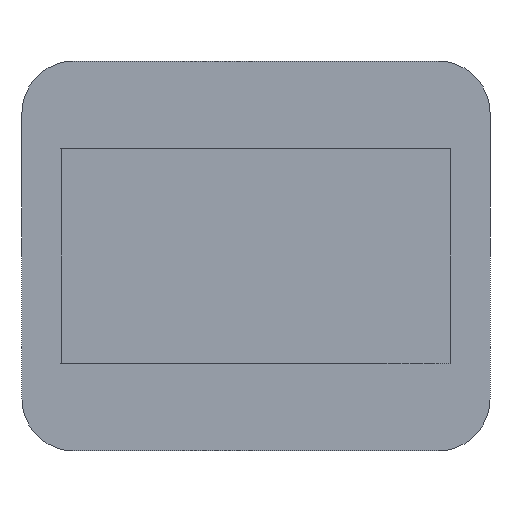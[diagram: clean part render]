
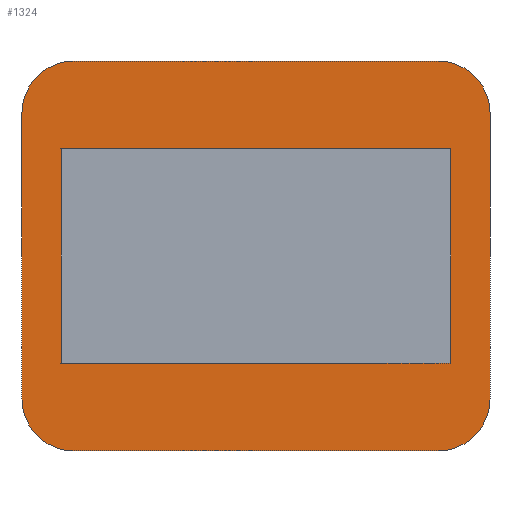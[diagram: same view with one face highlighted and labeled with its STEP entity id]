
A CAD part, front view. The second image highlights one B-rep face of the part: STEP entity #1324.
In plain terms, the highlighted planar face has unit normal (0, -1, 0).
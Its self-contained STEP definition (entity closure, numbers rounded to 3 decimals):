
#92 = AXIS2_PLACEMENT_3D ( 'NONE', #9417, #14404, #1681 ) ;
#280 = CARTESIAN_POINT ( 'NONE',  ( 15., 0., 14. ) ) ;
#320 = ORIENTED_EDGE ( 'NONE', *, *, #15211, .F. ) ;
#335 = VERTEX_POINT ( 'NONE', #15687 ) ;
#471 = CIRCLE ( 'NONE', #12399, 4. ) ;
#707 = VERTEX_POINT ( 'NONE', #14442 ) ;
#774 = CARTESIAN_POINT ( 'NONE',  ( 0., 0., -7.75 ) ) ;
#1244 = CARTESIAN_POINT ( 'NONE',  ( 11., 0., 14. ) ) ;
#1324 = ADVANCED_FACE ( 'NONE', ( #2998, #6182, #3792 ), #8613, .F. ) ;
#1351 = CARTESIAN_POINT ( 'NONE',  ( -11., 0., -18. ) ) ;
#1507 = DIRECTION ( 'NONE',  ( 0., 0., -1. ) ) ;
#1600 = CARTESIAN_POINT ( 'NONE',  ( 11., 0., -14. ) ) ;
#1666 = EDGE_CURVE ( 'NONE', #6243, #3497, #5770, .T. ) ;
#1681 = DIRECTION ( 'NONE',  ( 0., 0., -1. ) ) ;
#1756 = EDGE_CURVE ( 'NONE', #13549, #3497, #14838, .T. ) ;
#1851 = CARTESIAN_POINT ( 'NONE',  ( -11., 0., 18. ) ) ;
#2378 = VERTEX_POINT ( 'NONE', #1851 ) ;
#2393 = ORIENTED_EDGE ( 'NONE', *, *, #9060, .T. ) ;
#2655 = ORIENTED_EDGE ( 'NONE', *, *, #1756, .T. ) ;
#2792 = ORIENTED_EDGE ( 'NONE', *, *, #5250, .T. ) ;
#2823 = EDGE_CURVE ( 'NONE', #13549, #707, #2943, .T. ) ;
#2844 = EDGE_LOOP ( 'NONE', ( #2792, #16363, #2655, #5921, #2393, #9594, #4012, #15224 ) ) ;
#2943 = CIRCLE ( 'NONE', #3615, 4. ) ;
#2998 = FACE_OUTER_BOUND ( 'NONE', #2844, .T. ) ;
#3049 = DIRECTION ( 'NONE',  ( 0., 0., 1. ) ) ;
#3497 = VERTEX_POINT ( 'NONE', #12285 ) ;
#3580 = AXIS2_PLACEMENT_3D ( 'NONE', #9080, #15268, #1507 ) ;
#3615 = AXIS2_PLACEMENT_3D ( 'NONE', #1600, #14705, #15588 ) ;
#3695 = DIRECTION ( 'NONE',  ( 0., 1., 0. ) ) ;
#3792 = FACE_BOUND ( 'NONE', #8308, .T. ) ;
#3919 = DIRECTION ( 'NONE',  ( -1., 0., 0. ) ) ;
#4012 = ORIENTED_EDGE ( 'NONE', *, *, #6466, .T. ) ;
#4177 = CARTESIAN_POINT ( 'NONE',  ( 0., 0., -10.75 ) ) ;
#4585 = CARTESIAN_POINT ( 'NONE',  ( 15., 0., -14. ) ) ;
#5181 = VECTOR ( 'NONE', #7979, 1000. ) ;
#5250 = EDGE_CURVE ( 'NONE', #8937, #707, #15042, .T. ) ;
#5576 = CIRCLE ( 'NONE', #3580, 1.5 ) ;
#5744 = AXIS2_PLACEMENT_3D ( 'NONE', #1244, #11376, #6380 ) ;
#5754 = VERTEX_POINT ( 'NONE', #8358 ) ;
#5770 = CIRCLE ( 'NONE', #5744, 4. ) ;
#5921 = ORIENTED_EDGE ( 'NONE', *, *, #1666, .F. ) ;
#6182 = FACE_BOUND ( 'NONE', #8748, .T. ) ;
#6243 = VERTEX_POINT ( 'NONE', #14859 ) ;
#6380 = DIRECTION ( 'NONE',  ( 0., 0., 1. ) ) ;
#6466 = EDGE_CURVE ( 'NONE', #13408, #5754, #7886, .T. ) ;
#6753 = CIRCLE ( 'NONE', #7986, 1.5 ) ;
#7477 = EDGE_CURVE ( 'NONE', #13408, #2378, #471, .T. ) ;
#7685 = DIRECTION ( 'NONE',  ( 1., 0., 0. ) ) ;
#7886 = LINE ( 'NONE', #8676, #13594 ) ;
#7979 = DIRECTION ( 'NONE',  ( 0., 0., 1. ) ) ;
#7986 = AXIS2_PLACEMENT_3D ( 'NONE', #11384, #16353, #16236 ) ;
#8100 = DIRECTION ( 'NONE',  ( 0., 1., 0. ) ) ;
#8308 = EDGE_LOOP ( 'NONE', ( #320, #11871 ) ) ;
#8358 = CARTESIAN_POINT ( 'NONE',  ( -15., 0., -14. ) ) ;
#8517 = EDGE_CURVE ( 'NONE', #11232, #14253, #6753, .T. ) ;
#8613 = PLANE ( 'NONE',  #9929 ) ;
#8676 = CARTESIAN_POINT ( 'NONE',  ( -15., 0., -14. ) ) ;
#8748 = EDGE_LOOP ( 'NONE', ( #12009, #14358 ) ) ;
#8788 = DIRECTION ( 'NONE',  ( 0., 0., -1. ) ) ;
#8833 = DIRECTION ( 'NONE',  ( 0., 1., 0. ) ) ;
#8872 = CARTESIAN_POINT ( 'NONE',  ( 11., 0., -18. ) ) ;
#8885 = VECTOR ( 'NONE', #3919, 1000. ) ;
#8926 = CARTESIAN_POINT ( 'NONE',  ( -11., 0., 14. ) ) ;
#8937 = VERTEX_POINT ( 'NONE', #1351 ) ;
#8938 = CARTESIAN_POINT ( 'NONE',  ( -11., 0., 18. ) ) ;
#9060 = EDGE_CURVE ( 'NONE', #6243, #2378, #9066, .T. ) ;
#9066 = LINE ( 'NONE', #8938, #8885 ) ;
#9080 = CARTESIAN_POINT ( 'NONE',  ( 0., 0., 9.25 ) ) ;
#9417 = CARTESIAN_POINT ( 'NONE',  ( 0., 0., 9.25 ) ) ;
#9594 = ORIENTED_EDGE ( 'NONE', *, *, #7477, .F. ) ;
#9668 = CIRCLE ( 'NONE', #92, 1.5 ) ;
#9929 = AXIS2_PLACEMENT_3D ( 'NONE', #9980, #8833, #15008 ) ;
#9980 = CARTESIAN_POINT ( 'NONE',  ( -11., 0., -14. ) ) ;
#10092 = CIRCLE ( 'NONE', #13488, 4. ) ;
#10128 = DIRECTION ( 'NONE',  ( 0., 0., 1. ) ) ;
#10149 = VERTEX_POINT ( 'NONE', #11852 ) ;
#11232 = VERTEX_POINT ( 'NONE', #774 ) ;
#11376 = DIRECTION ( 'NONE',  ( 0., 1., 0. ) ) ;
#11384 = CARTESIAN_POINT ( 'NONE',  ( 0., 0., -9.25 ) ) ;
#11697 = VECTOR ( 'NONE', #7685, 1000. ) ;
#11852 = CARTESIAN_POINT ( 'NONE',  ( 0., 0., 7.75 ) ) ;
#11871 = ORIENTED_EDGE ( 'NONE', *, *, #15377, .F. ) ;
#12009 = ORIENTED_EDGE ( 'NONE', *, *, #13590, .F. ) ;
#12189 = CARTESIAN_POINT ( 'NONE',  ( 0., 0., -9.25 ) ) ;
#12285 = CARTESIAN_POINT ( 'NONE',  ( 15., 0., 14. ) ) ;
#12399 = AXIS2_PLACEMENT_3D ( 'NONE', #8926, #3695, #10128 ) ;
#12722 = CIRCLE ( 'NONE', #14555, 1.5 ) ;
#12901 = EDGE_CURVE ( 'NONE', #8937, #5754, #10092, .T. ) ;
#13408 = VERTEX_POINT ( 'NONE', #14244 ) ;
#13464 = DIRECTION ( 'NONE',  ( 0., -1., 0. ) ) ;
#13488 = AXIS2_PLACEMENT_3D ( 'NONE', #15466, #8100, #3049 ) ;
#13549 = VERTEX_POINT ( 'NONE', #4585 ) ;
#13590 = EDGE_CURVE ( 'NONE', #14253, #11232, #12722, .T. ) ;
#13594 = VECTOR ( 'NONE', #8788, 1000. ) ;
#14244 = CARTESIAN_POINT ( 'NONE',  ( -15., 0., 14. ) ) ;
#14253 = VERTEX_POINT ( 'NONE', #4177 ) ;
#14358 = ORIENTED_EDGE ( 'NONE', *, *, #8517, .F. ) ;
#14404 = DIRECTION ( 'NONE',  ( 0., -1., 0. ) ) ;
#14442 = CARTESIAN_POINT ( 'NONE',  ( 11., 0., -18. ) ) ;
#14555 = AXIS2_PLACEMENT_3D ( 'NONE', #12189, #13464, #16046 ) ;
#14705 = DIRECTION ( 'NONE',  ( 0., 1., 0. ) ) ;
#14838 = LINE ( 'NONE', #280, #5181 ) ;
#14859 = CARTESIAN_POINT ( 'NONE',  ( 11., 0., 18. ) ) ;
#15008 = DIRECTION ( 'NONE',  ( 0., 0., 1. ) ) ;
#15042 = LINE ( 'NONE', #8872, #11697 ) ;
#15211 = EDGE_CURVE ( 'NONE', #10149, #335, #5576, .T. ) ;
#15224 = ORIENTED_EDGE ( 'NONE', *, *, #12901, .F. ) ;
#15268 = DIRECTION ( 'NONE',  ( 0., -1., 0. ) ) ;
#15377 = EDGE_CURVE ( 'NONE', #335, #10149, #9668, .T. ) ;
#15466 = CARTESIAN_POINT ( 'NONE',  ( -11., 0., -14. ) ) ;
#15588 = DIRECTION ( 'NONE',  ( 0., 0., 1. ) ) ;
#15687 = CARTESIAN_POINT ( 'NONE',  ( 0., 0., 10.75 ) ) ;
#16046 = DIRECTION ( 'NONE',  ( 0., 0., -1. ) ) ;
#16236 = DIRECTION ( 'NONE',  ( 0., 0., -1. ) ) ;
#16353 = DIRECTION ( 'NONE',  ( 0., -1., 0. ) ) ;
#16363 = ORIENTED_EDGE ( 'NONE', *, *, #2823, .F. ) ;
